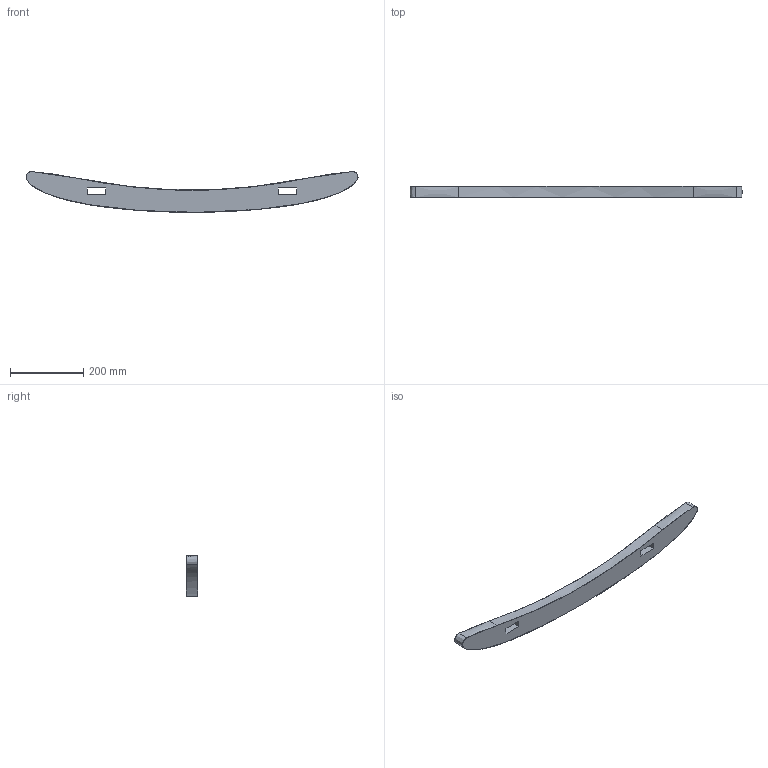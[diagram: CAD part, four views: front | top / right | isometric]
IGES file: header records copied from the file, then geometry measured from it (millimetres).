
Start section: SolidWorks IGES file using analytic representation for surfaces
Global section: file name: C:\Users\WZL\Desktop\標撿\seeed\20240518\狟啣.IGS,  1; native system: 5HSolidWorks 2016; preprocessor: SolidWorks 2016; author: WZL; date: 240519.110403; units: millimetre
Bounding box: 905.16 x 30 x 110.9 mm (x, y, z)
Surface area: 170103.7 mm2 (no closed solid volume)
Topology: 0 solids, 0 shells, 16 faces, 216 edges, 216 vertices
Faces by surface type: bspline 16
